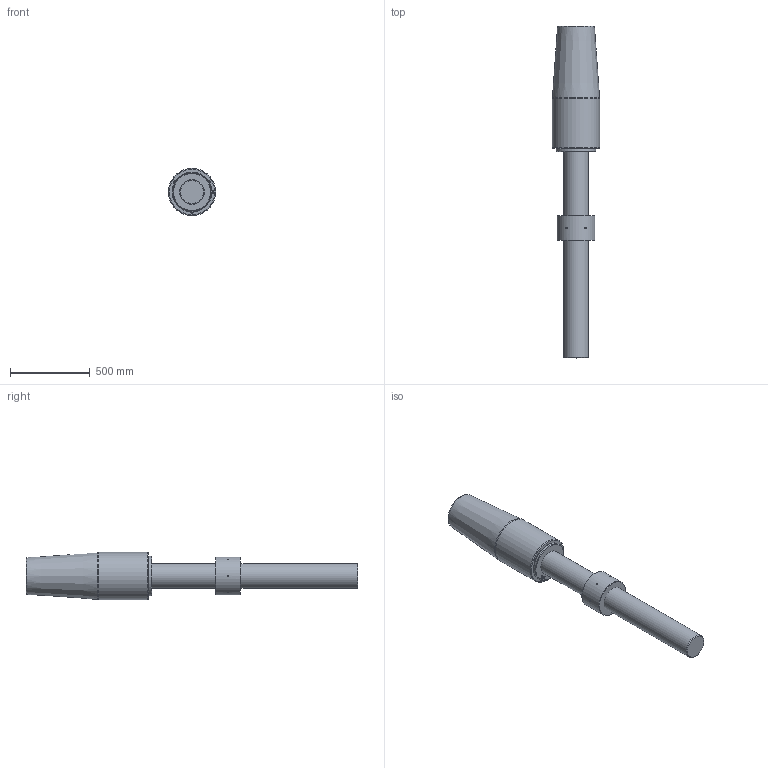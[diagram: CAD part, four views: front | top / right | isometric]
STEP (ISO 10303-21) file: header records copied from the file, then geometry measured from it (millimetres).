
FILE_DESCRIPTION(/* description */ (''),/* implementation_level */ '2;1');
FILE_NAME(/* name */ 'D:\Clienti\Redaelli (inventor)\CYB\STEP\Arrangement\CYB100 52 061 0.stp',/* time_stamp */ '2021-05-08T14:53:06+02:00',/* author */ ('fabri'),/* organization */ (''),/* preprocessor_version */ 'ST-DEVELOPER v16.13',/* originating_system */ 'Autodesk Inventor 2018',/* authorisation */ '');
FILE_SCHEMA (('AUTOMOTIVE_DESIGN { 1 0 10303 214 3 1 1 }'));
Length unit declared in the file: millimetre
Products named in the file (5): CYB100 52 061 0; RNT052 41 051 0_ROD; RNT052 41 051 0_ROD_1; CCY021-51-061-0_BUSH; CCY021-51-061-0
Assembly tree (4 placements, depth 2):
  CYB100 52 061 0
    RNT052 41 051 0_ROD
    RNT052 41 051 0_ROD_1
    CCY021-51-061-0_BUSH
    CCY021-51-061-0
Bounding box: 295 x 2075 x 295 mm (x, y, z)
Volume: 82783953.8 mm3; surface area: 2089727.8 mm2
Topology: 4 solids, 4 shells, 663 faces, 1764 edges, 1171 vertices
Faces by surface type: bspline 336, plane 289, cylinder 18, cone 16, torus 4
Full cylindrical faces by diameter (mm): 10 x6, 13.835 x3, 148.505 x2, 155 x1, 156 x1, 208 x1, 220 x1, 235 x1, 250 x1, 295 x1
Entity records: 22300 total; most frequent: CARTESIAN_POINT 8141, ORIENTED_EDGE 3430, DIRECTION 1747, EDGE_CURVE 1715, VERTEX_POINT 1161, LINE 989, VECTOR 989, EDGE_LOOP 768
